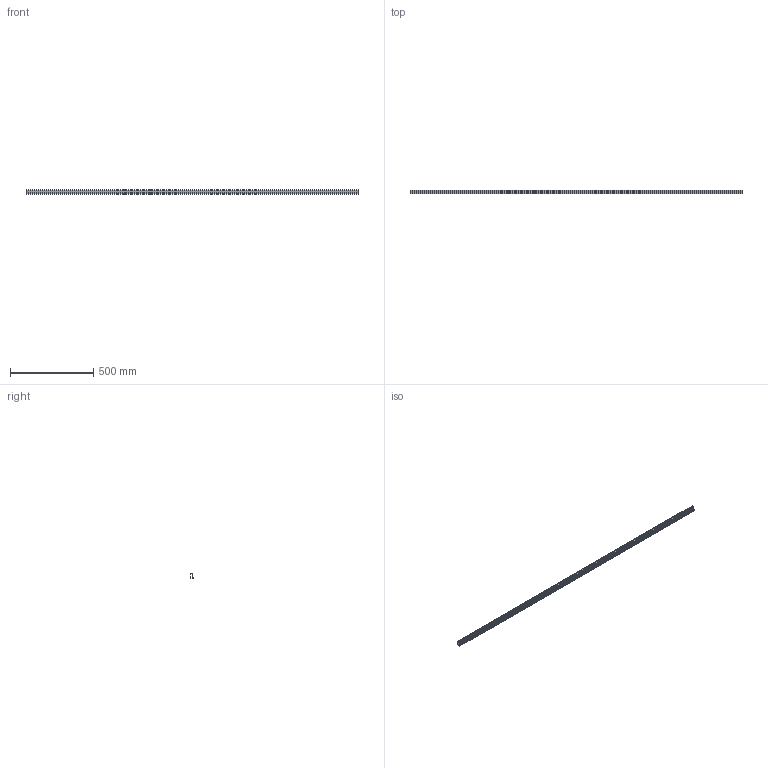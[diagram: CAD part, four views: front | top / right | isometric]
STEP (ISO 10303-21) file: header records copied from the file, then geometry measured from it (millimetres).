
FILE_DESCRIPTION( ( '' ), '1' );
FILE_NAME( 'D:/temp/hettich_stp/hettich/4_folding_sliding/4.6_accessories/runner_guide_profile/1079089.stp', '2013-02-26T10:24:27', ( '' ), ( '' ), ' ', ' ', ' ' );
FILE_SCHEMA( ( 'automotive_design' ) );
Length unit declared in the file: millimetre
Products named in the file (1): 1
Bounding box: 2000 x 23 x 25 mm (x, y, z)
Volume: 230429.9 mm3; surface area: 274715.3 mm2
Topology: 1 solids, 1 shells, 35 faces, 99 edges, 66 vertices
Faces by surface type: cylinder 18, plane 17
Entity records: 2278 total; most frequent: DIRECTION 207, STYLED_ITEM 201, PRESENTATION_STYLE_ASSIGNMENT 201, CARTESIAN_POINT 201, COLOUR_RGB 201, ORIENTED_EDGE 198, EDGE_CURVE 99, CURVE_STYLE 99
